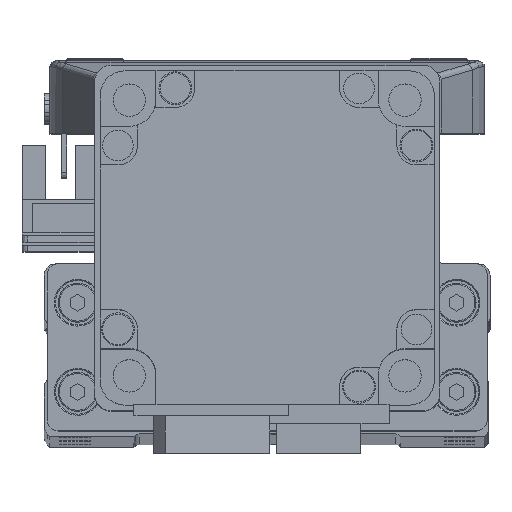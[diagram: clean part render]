
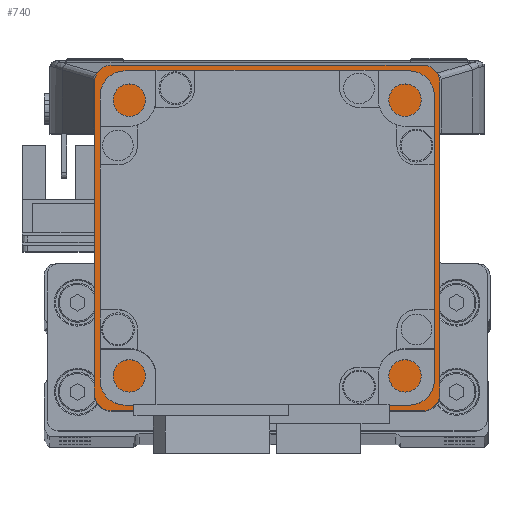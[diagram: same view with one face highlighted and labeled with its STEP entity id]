
A CAD part, top view. The second image highlights one B-rep face of the part: STEP entity #740.
In plain terms, the highlighted planar face has unit normal (0, 0, 1).
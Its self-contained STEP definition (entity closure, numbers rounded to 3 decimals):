
#740 = ADVANCED_FACE ( 'NONE', ( #48290, #48288 ), #27795, .T. ) ;
#2357 = AXIS2_PLACEMENT_3D ( 'NONE', #27834, #27809, #27804 ) ;
#3567 = CARTESIAN_POINT ( 'NONE',  ( 30.995, 63.495, 79. ) ) ;
#3569 = CARTESIAN_POINT ( 'NONE',  ( 27.995, 4.505, 79. ) ) ;
#3611 = CARTESIAN_POINT ( 'NONE',  ( -27.995, 66.495, 79. ) ) ;
#3658 = CARTESIAN_POINT ( 'NONE',  ( 27.995, 66.495, 79. ) ) ;
#5348 = CARTESIAN_POINT ( 'NONE',  ( -30.995, 63.495, 79. ) ) ;
#5349 = CARTESIAN_POINT ( 'NONE',  ( -30.995, 7.505, 79. ) ) ;
#5989 = CARTESIAN_POINT ( 'NONE',  ( 25., 35.5, 79. ) ) ;
#6081 = CARTESIAN_POINT ( 'NONE',  ( -25., 35.5, 79. ) ) ;
#11636 = CIRCLE ( 'NONE', #35036, 25. ) ;
#12279 = DIRECTION ( 'NONE',  ( 1., 0., 0. ) ) ;
#12288 = CARTESIAN_POINT ( 'NONE',  ( 0., 35.5, 79. ) ) ;
#12317 = DIRECTION ( 'NONE',  ( 0., 0., 1. ) ) ;
#18199 = VERTEX_POINT ( 'NONE', #3567 ) ;
#18209 = VERTEX_POINT ( 'NONE', #3569 ) ;
#18211 = VERTEX_POINT ( 'NONE', #3611 ) ;
#18236 = VERTEX_POINT ( 'NONE', #3658 ) ;
#18813 = EDGE_LOOP ( 'NONE', ( #19675, #19666, #19636, #19564, #19585, #19632, #19594, #19673 ) ) ;
#18814 = EDGE_LOOP ( 'NONE', ( #19643, #19628 ) ) ;
#19357 = VERTEX_POINT ( 'NONE', #5348 ) ;
#19360 = VERTEX_POINT ( 'NONE', #5349 ) ;
#19564 = ORIENTED_EDGE ( 'NONE', *, *, #23005, .T. ) ;
#19585 = ORIENTED_EDGE ( 'NONE', *, *, #23031, .T. ) ;
#19594 = ORIENTED_EDGE ( 'NONE', *, *, #23046, .T. ) ;
#19628 = ORIENTED_EDGE ( 'NONE', *, *, #24270, .F. ) ;
#19632 = ORIENTED_EDGE ( 'NONE', *, *, #23078, .T. ) ;
#19636 = ORIENTED_EDGE ( 'NONE', *, *, #22979, .T. ) ;
#19643 = ORIENTED_EDGE ( 'NONE', *, *, #22966, .F. ) ;
#19666 = ORIENTED_EDGE ( 'NONE', *, *, #23033, .T. ) ;
#19673 = ORIENTED_EDGE ( 'NONE', *, *, #23064, .T. ) ;
#19675 = ORIENTED_EDGE ( 'NONE', *, *, #23025, .T. ) ;
#21043 = VERTEX_POINT ( 'NONE', #5989 ) ;
#21073 = VERTEX_POINT ( 'NONE', #6081 ) ;
#22966 = EDGE_CURVE ( 'NONE', #21043, #21073, #39815, .T. ) ;
#22979 = EDGE_CURVE ( 'NONE', #28370, #18209, #39902, .T. ) ;
#23005 = EDGE_CURVE ( 'NONE', #18209, #28387, #39941, .T. ) ;
#23025 = EDGE_CURVE ( 'NONE', #19357, #19360, #40008, .T. ) ;
#23031 = EDGE_CURVE ( 'NONE', #28387, #18199, #39986, .T. ) ;
#23033 = EDGE_CURVE ( 'NONE', #19360, #28370, #39989, .T. ) ;
#23046 = EDGE_CURVE ( 'NONE', #18236, #18211, #40083, .T. ) ;
#23064 = EDGE_CURVE ( 'NONE', #18211, #19357, #40031, .T. ) ;
#23078 = EDGE_CURVE ( 'NONE', #18199, #18236, #40146, .T. ) ;
#24270 = EDGE_CURVE ( 'NONE', #21073, #21043, #11636, .T. ) ;
#27795 = PLANE ( 'NONE',  #2357 ) ;
#27804 = DIRECTION ( 'NONE',  ( 1., 0., 0. ) ) ;
#27809 = DIRECTION ( 'NONE',  ( 0., 0., 1. ) ) ;
#27834 = CARTESIAN_POINT ( 'NONE',  ( 0., 0., 79. ) ) ;
#28370 = VERTEX_POINT ( 'NONE', #40955 ) ;
#28387 = VERTEX_POINT ( 'NONE', #40974 ) ;
#34651 = AXIS2_PLACEMENT_3D ( 'NONE', #36221, #36227, #36228 ) ;
#34653 = AXIS2_PLACEMENT_3D ( 'NONE', #36515, #36462, #36457 ) ;
#34669 = AXIS2_PLACEMENT_3D ( 'NONE', #36647, #36686, #36659 ) ;
#34673 = AXIS2_PLACEMENT_3D ( 'NONE', #36599, #36657, #36640 ) ;
#34680 = AXIS2_PLACEMENT_3D ( 'NONE', #36300, #36301, #36314 ) ;
#35036 = AXIS2_PLACEMENT_3D ( 'NONE', #12288, #12317, #12279 ) ;
#36221 = CARTESIAN_POINT ( 'NONE',  ( 0., 35.5, 79. ) ) ;
#36227 = DIRECTION ( 'NONE',  ( 0., 0., 1. ) ) ;
#36228 = DIRECTION ( 'NONE',  ( 1., 0., 0. ) ) ;
#36283 = CARTESIAN_POINT ( 'NONE',  ( 30.995, 4.505, 79. ) ) ;
#36285 = DIRECTION ( 'NONE',  ( 1., 0., 0. ) ) ;
#36300 = CARTESIAN_POINT ( 'NONE',  ( 27.995, 7.505, 79. ) ) ;
#36301 = DIRECTION ( 'NONE',  ( 0., 0., 1. ) ) ;
#36314 = DIRECTION ( 'NONE',  ( 1., 0., 0. ) ) ;
#36383 = DIRECTION ( 'NONE',  ( 0., -1., 0. ) ) ;
#36390 = CARTESIAN_POINT ( 'NONE',  ( 30.995, 4.505, 79. ) ) ;
#36428 = CARTESIAN_POINT ( 'NONE',  ( -30.995, 4.505, 79. ) ) ;
#36457 = DIRECTION ( 'NONE',  ( 1., 0., 0. ) ) ;
#36462 = DIRECTION ( 'NONE',  ( 0., 0., 1. ) ) ;
#36510 = DIRECTION ( 'NONE',  ( 0., 1., 0. ) ) ;
#36512 = DIRECTION ( 'NONE',  ( -1., 0., 0. ) ) ;
#36515 = CARTESIAN_POINT ( 'NONE',  ( -27.995, 7.505, 79. ) ) ;
#36527 = CARTESIAN_POINT ( 'NONE',  ( 30.995, 66.495, 79. ) ) ;
#36599 = CARTESIAN_POINT ( 'NONE',  ( -27.995, 63.495, 79. ) ) ;
#36640 = DIRECTION ( 'NONE',  ( 1., 0., 0. ) ) ;
#36647 = CARTESIAN_POINT ( 'NONE',  ( 27.995, 63.495, 79. ) ) ;
#36657 = DIRECTION ( 'NONE',  ( 0., 0., 1. ) ) ;
#36659 = DIRECTION ( 'NONE',  ( 1., 0., 0. ) ) ;
#36686 = DIRECTION ( 'NONE',  ( 0., 0., 1. ) ) ;
#39815 = CIRCLE ( 'NONE', #34651, 25. ) ;
#39847 = VECTOR ( 'NONE', #36285, 1000. ) ;
#39902 = LINE ( 'NONE', #36283, #39847 ) ;
#39941 = CIRCLE ( 'NONE', #34680, 3. ) ;
#39961 = VECTOR ( 'NONE', #36510, 1000. ) ;
#39986 = LINE ( 'NONE', #36390, #39961 ) ;
#39989 = CIRCLE ( 'NONE', #34653, 3. ) ;
#39994 = VECTOR ( 'NONE', #36383, 1000. ) ;
#40008 = LINE ( 'NONE', #36428, #39994 ) ;
#40031 = CIRCLE ( 'NONE', #34673, 3. ) ;
#40055 = VECTOR ( 'NONE', #36512, 1000. ) ;
#40083 = LINE ( 'NONE', #36527, #40055 ) ;
#40146 = CIRCLE ( 'NONE', #34669, 3. ) ;
#40955 = CARTESIAN_POINT ( 'NONE',  ( -27.995, 4.505, 79. ) ) ;
#40974 = CARTESIAN_POINT ( 'NONE',  ( 30.995, 7.505, 79. ) ) ;
#48288 = FACE_OUTER_BOUND ( 'NONE', #18813, .T. ) ;
#48290 = FACE_BOUND ( 'NONE', #18814, .T. ) ;
